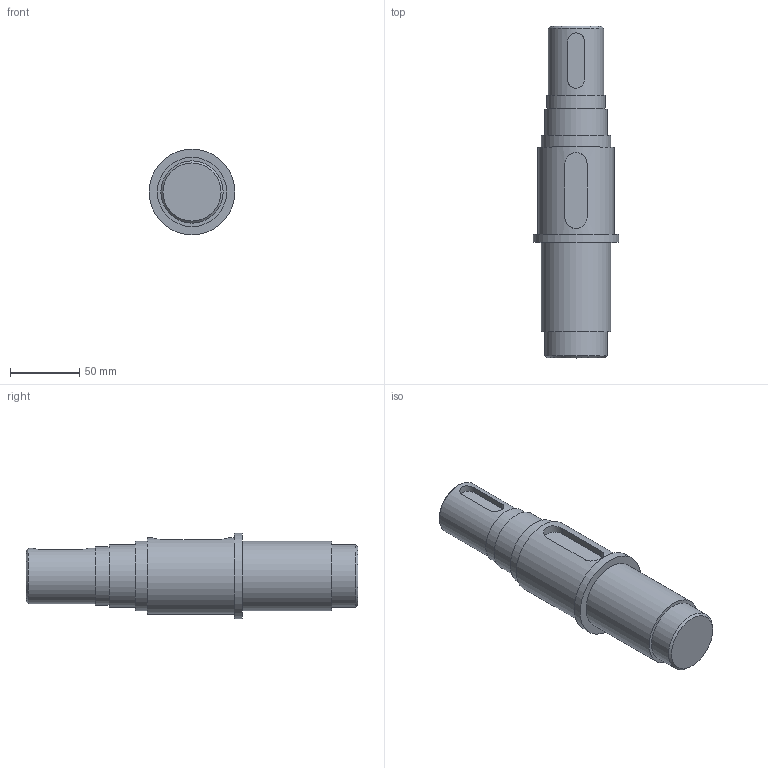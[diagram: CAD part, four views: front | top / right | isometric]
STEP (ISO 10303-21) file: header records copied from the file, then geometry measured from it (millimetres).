
FILE_DESCRIPTION(('Open CASCADE Model'),'2;1');
FILE_NAME('Open CASCADE Shape Model','2026-09-15T22:57:42',('Author'),( 'Open CASCADE'),'Open CASCADE STEP processor 7.9','build123d', 'Unknown');
FILE_SCHEMA(('AUTOMOTIVE_DESIGN { 1 0 10303 214 1 1 1 1 }'));
Length unit declared in the file: millimetre
Products named in the file (1): COMPOUND
Bounding box: 62 x 240 x 62 mm (x, y, z)
Volume: 441194.5 mm3; surface area: 43322.5 mm2
Topology: 1 solids, 1 shells, 29 faces, 52 edges, 34 vertices
Faces by surface type: plane 15, cylinder 12, cone 2
Full cylindrical faces by diameter (mm): 40 x1, 42 x1, 45 x2, 50 x2, 55 x1, 62 x1
Entity records: 1776 total; most frequent: CARTESIAN_POINT 658, DIRECTION 210, ORIENTED_EDGE 104, PCURVE 104, DEFINITIONAL_REPRESENTATION 104, LINE 90, VECTOR 90, AXIS2_PLACEMENT_3D 52
